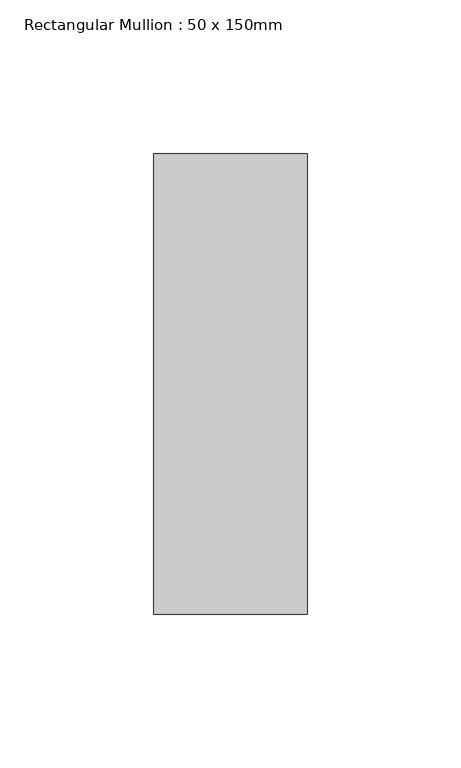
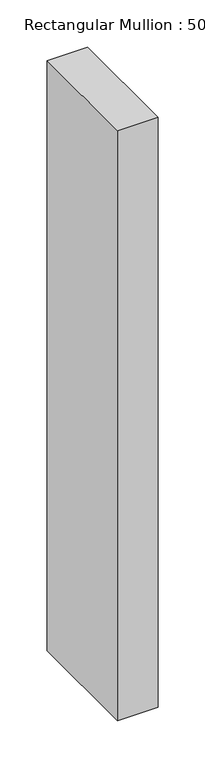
"""IFC4 building model written with IfcOpenShell, lengths in millimetres: member geometry, Rectangular Mullion : 50 x 150mm."""

from ifc_helpers import new_model, si_unit, frame, origin, place, context, project, spatial, polyline, outline, extrude, source, transform, mapped, element, save


def rectangular_mullion_50_x_150mm_54334a98(model_context):
    return source(origin(), model_context, "Body", "SweptSolid", [
        extrude(outline(polyline([(0.0, 75.0), (0.0, -75.0), (-50.0, -75.0), (-50.0, 75.0), (0.0, 75.0)])), frame((0.0, 0.0, -765.5128196), z_axis=(0.0, 0.0, 1.0), x_axis=(1.0, 0.0, 0.0)), (0.0, 0.0, 1.0), 765.5128196),
    ])


if __name__ == "__main__":
    model = new_model("IFC4")
    model_context = context("Model", 3, world=origin())
    ifc_project = project(units=[si_unit("LENGTHUNIT", "METRE", prefix="MILLI")], contexts=[model_context])
    site = spatial("IfcSite", under=ifc_project)
    building = spatial("IfcBuilding", under=site)
    placement = place(None, origin())
    rectangular_mullion_50_x_150mm_shape = rectangular_mullion_50_x_150mm_54334a98(model_context)
    element("IfcMember", 1, ObjectType="Rectangular Mullion : 50 x 150mm", at=placement, inside=building, context=model_context, shape_type="MappedRepresentation", body=[
        mapped(rectangular_mullion_50_x_150mm_shape, transform((0.0, 0.0, 0.0), x_axis=(1.0, 0.0, 0.0), y_axis=(0.0, 1.0, 0.0), z_axis=(0.0, 0.0, 1.0))),
    ])
    save(model, "model.ifc")
